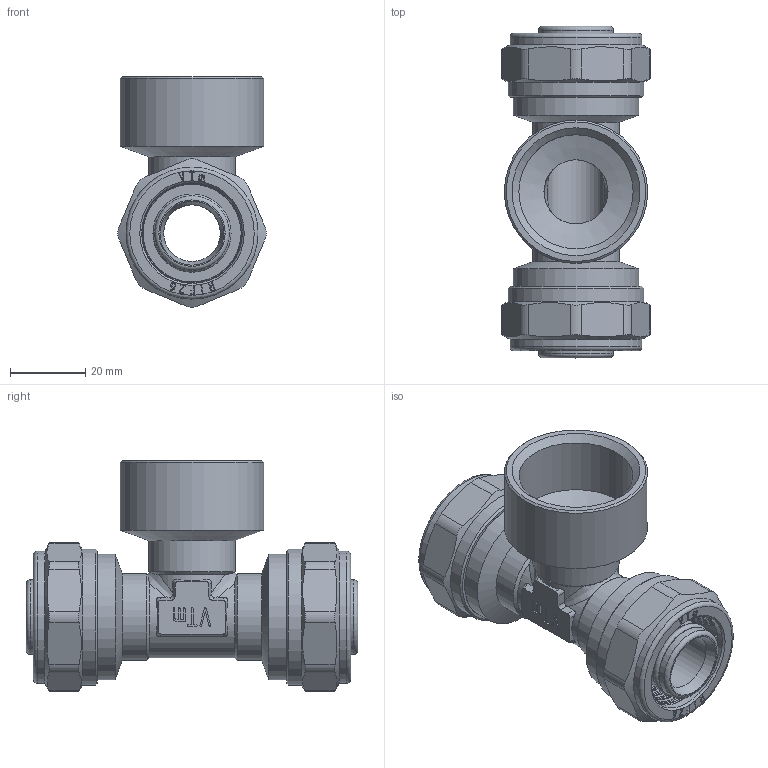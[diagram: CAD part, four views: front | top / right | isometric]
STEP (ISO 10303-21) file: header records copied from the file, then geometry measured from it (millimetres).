
FILE_DESCRIPTION(('STEP AP203'), '1');
FILE_NAME('VTm.332.N.260626', '', ('UNSPECIFIED'), ('UNSPECIFIED'), 'C3D Converter', 'C3D Toolkit', '');
FILE_SCHEMA(('CONFIG_CONTROL_DESIGN'));
Length unit declared in the file: millimetre
Products named in the file (1): ВР.302635.074.000 СБ
Bounding box: 39.39 x 88 x 61.19 mm (x, y, z)
Volume: 46516.5 mm3; surface area: 32915.6 mm2
Topology: 1 solids, 1 shells, 768 faces, 2108 edges, 1389 vertices
Faces by surface type: extrusion 324, plane 255, cylinder 94, torus 58, cone 33, bspline 2, sphere 2
Full cylindrical faces by diameter (mm): 15 x1, 17 x1, 17.4 x8, 19.8 x10, 20 x2, 23 x3, 26.2 x2, 26.7 x2, 30.292 x3, 33.249 x2, 35 x2, 36 x2, 38 x1
Entity records: 28842 total; most frequent: CARTESIAN_POINT 11333, ORIENTED_EDGE 4026, DIRECTION 2524, EDGE_CURVE 2013, VERTEX_POINT 1389, VECTOR 1228, B_SPLINE_CURVE_WITH_KNOTS 1166, EDGE_LOOP 914
